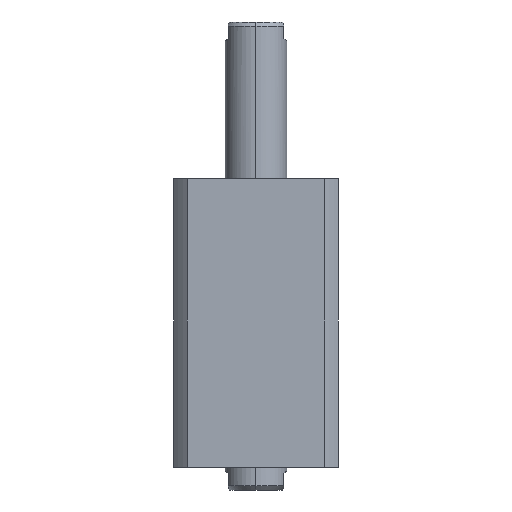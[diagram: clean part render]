
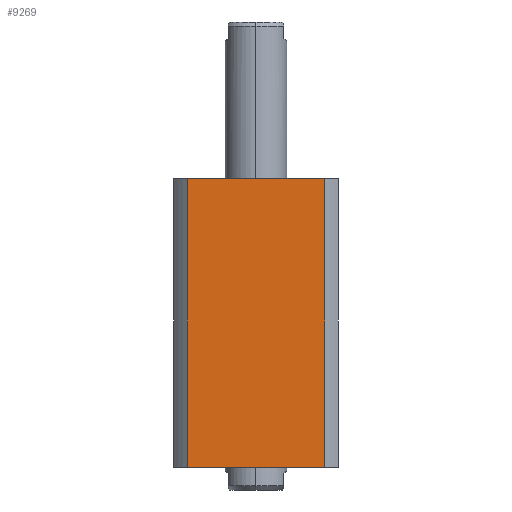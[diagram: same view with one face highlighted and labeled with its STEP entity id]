
A CAD part, left-side view. The second image highlights one B-rep face of the part: STEP entity #9269.
In plain terms, the highlighted planar face has unit normal (-1, 0, 0).
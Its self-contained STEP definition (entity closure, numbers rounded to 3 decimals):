
#109 = VERTEX_POINT ( 'NONE', #1152 ) ;
#267 = EDGE_CURVE ( 'NONE', #6714, #109, #6162, .T. ) ;
#856 = CARTESIAN_POINT ( 'NONE',  ( -40., 33.226, -70. ) ) ;
#868 = VERTEX_POINT ( 'NONE', #856 ) ;
#1101 = VERTEX_POINT ( 'NONE', #5622 ) ;
#1116 = EDGE_LOOP ( 'NONE', ( #5812, #7417, #5072, #6770 ) ) ;
#1152 = CARTESIAN_POINT ( 'NONE',  ( -40., -33.226, 70. ) ) ;
#1189 = PLANE ( 'NONE',  #2342 ) ;
#1686 = DIRECTION ( 'NONE',  ( 0., 0., -1. ) ) ;
#1842 = CARTESIAN_POINT ( 'NONE',  ( -40., 33.226, 70. ) ) ;
#1944 = DIRECTION ( 'NONE',  ( 1., 0., 0. ) ) ;
#2115 = VECTOR ( 'NONE', #8776, 1000. ) ;
#2342 = AXIS2_PLACEMENT_3D ( 'NONE', #1842, #1944, #7259 ) ;
#3002 = FACE_OUTER_BOUND ( 'NONE', #1116, .T. ) ;
#3010 = LINE ( 'NONE', #8301, #3965 ) ;
#3651 = EDGE_CURVE ( 'NONE', #109, #1101, #8018, .T. ) ;
#3965 = VECTOR ( 'NONE', #8268, 1000. ) ;
#3973 = VECTOR ( 'NONE', #1686, 1000. ) ;
#4071 = EDGE_CURVE ( 'NONE', #6714, #868, #3010, .T. ) ;
#4989 = CARTESIAN_POINT ( 'NONE',  ( -40., 33.226, -70. ) ) ;
#5072 = ORIENTED_EDGE ( 'NONE', *, *, #267, .F. ) ;
#5443 = EDGE_CURVE ( 'NONE', #868, #1101, #9123, .T. ) ;
#5622 = CARTESIAN_POINT ( 'NONE',  ( -40., -33.226, -70. ) ) ;
#5812 = ORIENTED_EDGE ( 'NONE', *, *, #5443, .T. ) ;
#6162 = LINE ( 'NONE', #6510, #7719 ) ;
#6510 = CARTESIAN_POINT ( 'NONE',  ( -40., 33.226, 70. ) ) ;
#6714 = VERTEX_POINT ( 'NONE', #7544 ) ;
#6770 = ORIENTED_EDGE ( 'NONE', *, *, #4071, .T. ) ;
#7259 = DIRECTION ( 'NONE',  ( 0., 1., 0. ) ) ;
#7417 = ORIENTED_EDGE ( 'NONE', *, *, #3651, .F. ) ;
#7544 = CARTESIAN_POINT ( 'NONE',  ( -40., 33.226, 70. ) ) ;
#7719 = VECTOR ( 'NONE', #9797, 1000. ) ;
#8018 = LINE ( 'NONE', #9246, #3973 ) ;
#8268 = DIRECTION ( 'NONE',  ( 0., 0., -1. ) ) ;
#8301 = CARTESIAN_POINT ( 'NONE',  ( -40., 33.226, 70. ) ) ;
#8776 = DIRECTION ( 'NONE',  ( 0., -1., 0. ) ) ;
#9123 = LINE ( 'NONE', #4989, #2115 ) ;
#9246 = CARTESIAN_POINT ( 'NONE',  ( -40., -33.226, 70. ) ) ;
#9269 = ADVANCED_FACE ( 'NONE', ( #3002 ), #1189, .F. ) ;
#9797 = DIRECTION ( 'NONE',  ( 0., -1., 0. ) ) ;
